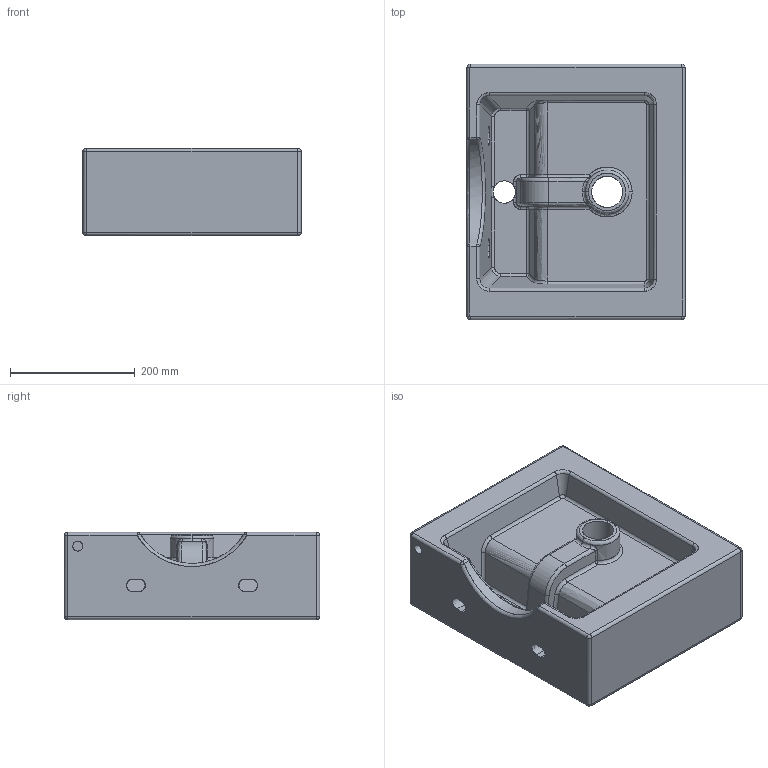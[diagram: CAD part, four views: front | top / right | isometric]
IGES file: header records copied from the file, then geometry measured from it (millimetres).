
Start section: C
Global section: file name: TeoremaR 40x35.igs; native system:  By UGS Corp.; preprocessor: XPlus GENERIC/IGES 3.0; author: Author; organization: Title; date: 20140131.123838; units: millimetre
Bounding box: 350 x 410 x 140 mm (x, y, z)
Surface area: 660640.9 mm2 (no closed solid volume)
Topology: 0 solids, 0 shells, 172 faces, 822 edges, 808 vertices
Faces by surface type: bspline 172
